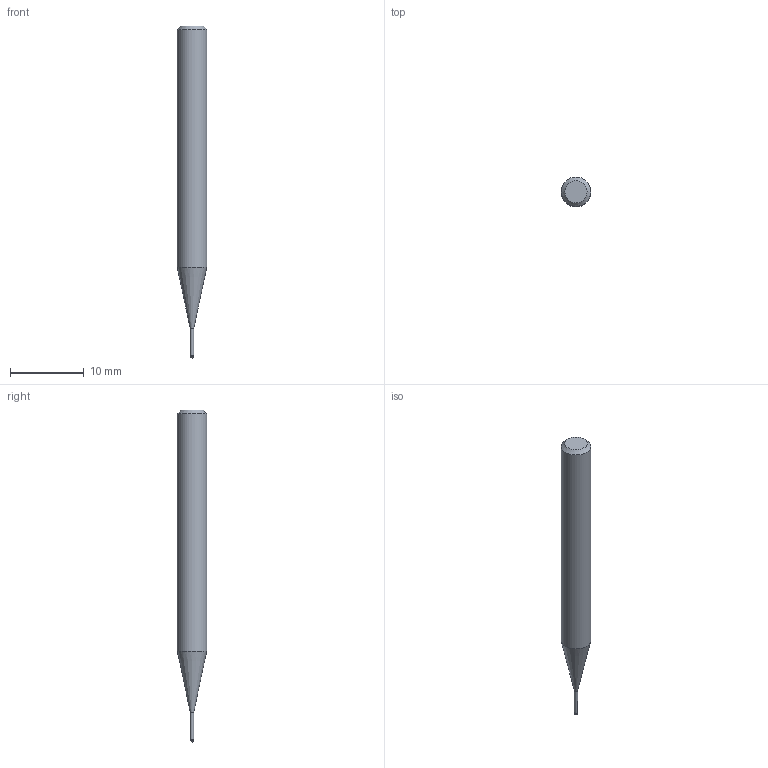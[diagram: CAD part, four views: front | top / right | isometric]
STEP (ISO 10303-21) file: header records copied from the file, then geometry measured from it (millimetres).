
FILE_DESCRIPTION((''),'2;1');
FILE_NAME('C:\Users\nsx150\AppData\Local\Temp\Mastercam 2021\AP8FW4WOPM\TEMP.step','2024-10-16T18:40:15',(''),(''),'STEP Write','Mastercam 2021 ... CNC Software, Inc.','');
FILE_SCHEMA(('AUTOMOTIVE_DESIGN'));
Length unit declared in the file: millimetre
Products named in the file (1): None
Bounding box: 4 x 4 x 45 mm (x, y, z)
Volume: 449.2 mm3; surface area: 485 mm2
Topology: 2 solids, 2 shells, 9 faces, 14 edges, 8 vertices
Faces by surface type: plane 3, cylinder 3, cone 2, sphere 1
Full cylindrical faces by diameter (mm): 0.46 x1, 0.5 x1, 4 x1
Entity records: 211 total; most frequent: DIRECTION 36, CARTESIAN_POINT 25, AXIS2_PLACEMENT_3D 18, ORIENTED_EDGE 14, EDGE_LOOP 14, STYLED_ITEM 12, ADVANCED_FACE 9, FACE_BOUND 8
